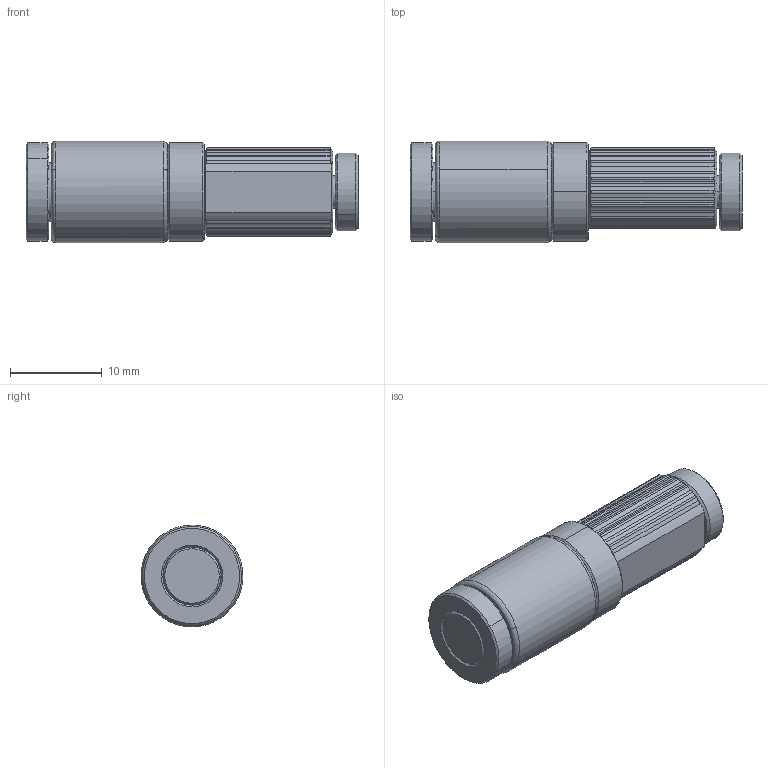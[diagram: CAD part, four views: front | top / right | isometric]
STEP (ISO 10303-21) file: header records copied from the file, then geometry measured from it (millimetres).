
FILE_DESCRIPTION (( 'STEP AP214' ), '1' );
FILE_NAME ('REELL TI- 320-X.XX-03,04.STEP', '2019-02-22T18:27:41', ( 'USER' ), ( '' ), 'SwSTEP 2.0', 'SolidWorks 2017', '' );
FILE_SCHEMA (( 'AUTOMOTIVE_DESIGN' ));
Length unit declared in the file: millimetre
Products named in the file (3): REELL TI 320 OW BEARING; REELL TI 320 OW; REELL TI- 320-X.XX-03,04
Assembly tree (2 placements, depth 2):
  REELL TI- 320-X.XX-03,04
    REELL TI 320 OW
    REELL TI 320 OW BEARING
Bounding box: 36.2 x 11.09 x 11.11 mm (x, y, z)
Volume: 2858.2 mm3; surface area: 2391.7 mm2
Topology: 3 solids, 3 shells, 277 faces, 674 edges, 440 vertices
Faces by surface type: cylinder 141, plane 68, cone 34, bspline 28, torus 6
Entity records: 8849 total; most frequent: CARTESIAN_POINT 2370, ORIENTED_EDGE 1348, DIRECTION 1308, EDGE_CURVE 674, AXIS2_PLACEMENT_3D 542, VERTEX_POINT 440, EDGE_LOOP 318, CIRCLE 288
